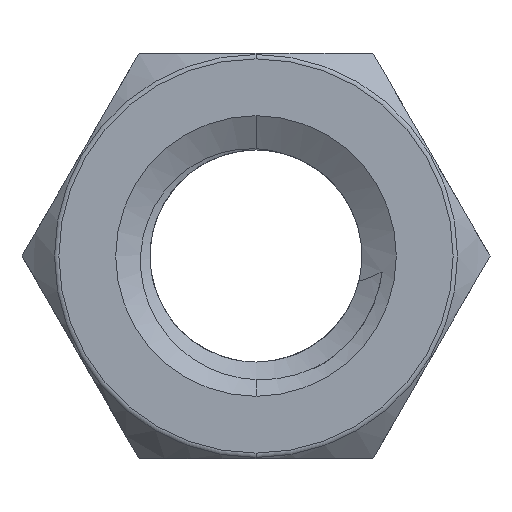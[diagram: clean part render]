
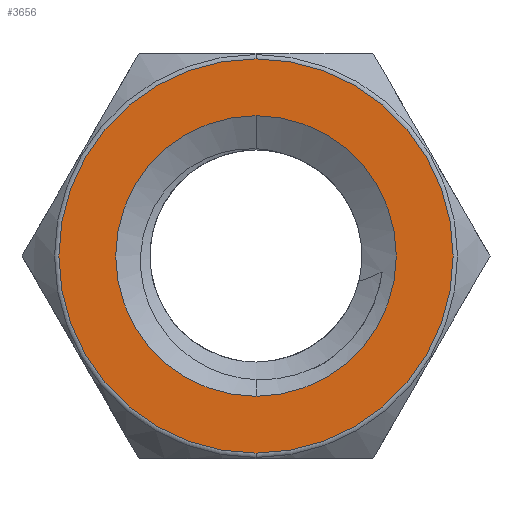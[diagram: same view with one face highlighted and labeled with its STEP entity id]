
A CAD part, front view. The second image highlights one B-rep face of the part: STEP entity #3656.
In plain terms, the highlighted planar face has unit normal (0, -1, 0).
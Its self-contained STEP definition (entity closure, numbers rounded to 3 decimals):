
#19 = AXIS2_PLACEMENT_3D ( 'NONE', #2457, #418, #660 ) ;
#191 = EDGE_LOOP ( 'NONE', ( #3052, #629 ) ) ;
#417 = DIRECTION ( 'NONE',  ( 0., 0., -1. ) ) ;
#418 = DIRECTION ( 'NONE',  ( 0., -1., 0. ) ) ;
#537 = CARTESIAN_POINT ( 'NONE',  ( 0., -2.75, 0. ) ) ;
#629 = ORIENTED_EDGE ( 'NONE', *, *, #2808, .T. ) ;
#660 = DIRECTION ( 'NONE',  ( 0., 0., 1. ) ) ;
#663 = DIRECTION ( 'NONE',  ( 0., 0., 1. ) ) ;
#688 = CARTESIAN_POINT ( 'NONE',  ( 0., -2.75, -4.5 ) ) ;
#831 = CARTESIAN_POINT ( 'NONE',  ( 0., -2.75, -6.323 ) ) ;
#956 = CARTESIAN_POINT ( 'NONE',  ( 0., -2.75, 0. ) ) ;
#1142 = CARTESIAN_POINT ( 'NONE',  ( 0., -2.75, 4.5 ) ) ;
#1276 = EDGE_LOOP ( 'NONE', ( #1421, #3570 ) ) ;
#1421 = ORIENTED_EDGE ( 'NONE', *, *, #1855, .F. ) ;
#1471 = DIRECTION ( 'NONE',  ( 0., 0., -1. ) ) ;
#1535 = DIRECTION ( 'NONE',  ( 0., -1., 0. ) ) ;
#1718 = FACE_BOUND ( 'NONE', #1276, .T. ) ;
#1802 = DIRECTION ( 'NONE',  ( 0., 1., 0. ) ) ;
#1855 = EDGE_CURVE ( 'NONE', #3773, #3486, #3534, .T. ) ;
#1858 = DIRECTION ( 'NONE',  ( 0., -1., 0. ) ) ;
#1920 = AXIS2_PLACEMENT_3D ( 'NONE', #537, #1802, #663 ) ;
#2007 = FACE_OUTER_BOUND ( 'NONE', #191, .T. ) ;
#2379 = CARTESIAN_POINT ( 'NONE',  ( 0., -2.75, 0. ) ) ;
#2424 = CIRCLE ( 'NONE', #3297, 6.323 ) ;
#2457 = CARTESIAN_POINT ( 'NONE',  ( 0., -2.75, 0. ) ) ;
#2479 = CARTESIAN_POINT ( 'NONE',  ( 0., -2.75, 6.323 ) ) ;
#2497 = CIRCLE ( 'NONE', #2927, 4.5 ) ;
#2600 = CIRCLE ( 'NONE', #19, 6.323 ) ;
#2713 = CARTESIAN_POINT ( 'NONE',  ( 0., -2.75, 0. ) ) ;
#2808 = EDGE_CURVE ( 'NONE', #3351, #3714, #2600, .T. ) ;
#2927 = AXIS2_PLACEMENT_3D ( 'NONE', #2379, #2949, #1471 ) ;
#2949 = DIRECTION ( 'NONE',  ( 0., -1., 0. ) ) ;
#2969 = AXIS2_PLACEMENT_3D ( 'NONE', #956, #1858, #417 ) ;
#2992 = DIRECTION ( 'NONE',  ( 0., 0., 1. ) ) ;
#3052 = ORIENTED_EDGE ( 'NONE', *, *, #3665, .T. ) ;
#3199 = PLANE ( 'NONE',  #1920 ) ;
#3297 = AXIS2_PLACEMENT_3D ( 'NONE', #2713, #1535, #2992 ) ;
#3351 = VERTEX_POINT ( 'NONE', #831 ) ;
#3486 = VERTEX_POINT ( 'NONE', #688 ) ;
#3534 = CIRCLE ( 'NONE', #2969, 4.5 ) ;
#3570 = ORIENTED_EDGE ( 'NONE', *, *, #3590, .F. ) ;
#3590 = EDGE_CURVE ( 'NONE', #3486, #3773, #2497, .T. ) ;
#3656 = ADVANCED_FACE ( 'NONE', ( #2007, #1718 ), #3199, .F. ) ;
#3665 = EDGE_CURVE ( 'NONE', #3714, #3351, #2424, .T. ) ;
#3714 = VERTEX_POINT ( 'NONE', #2479 ) ;
#3773 = VERTEX_POINT ( 'NONE', #1142 ) ;
